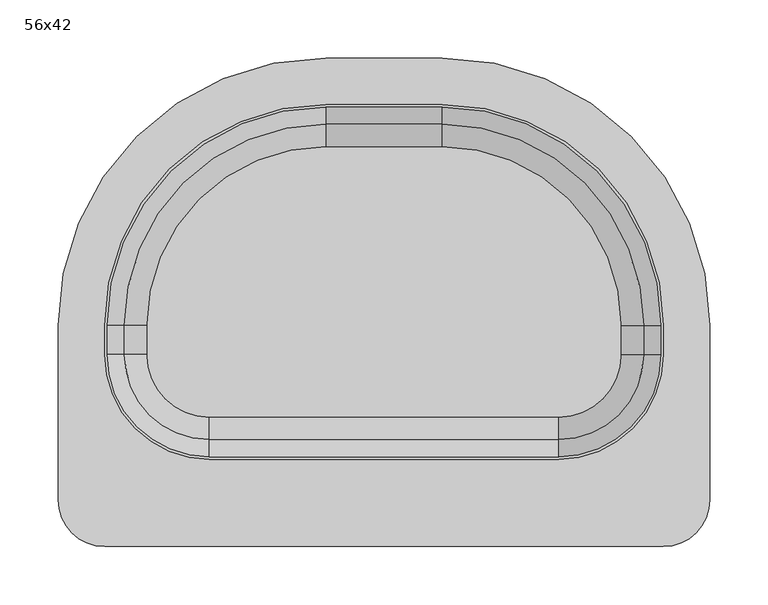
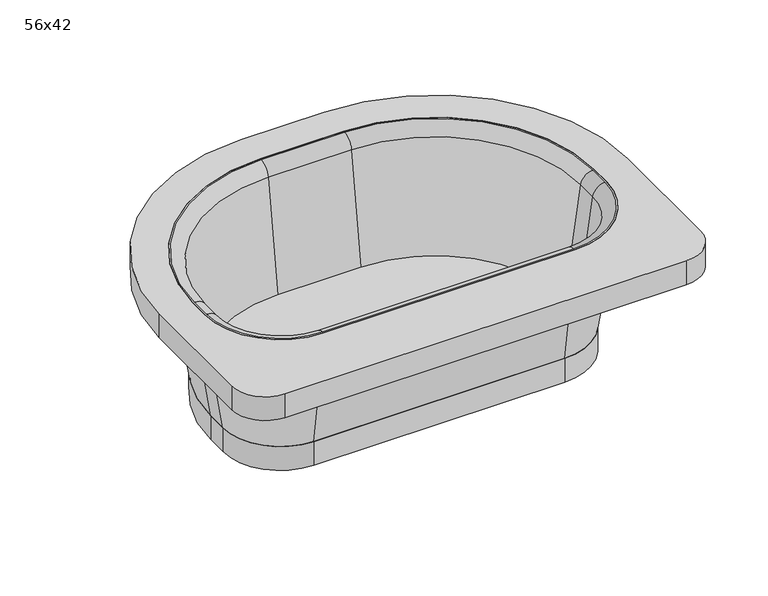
"""IFC4 building model written with IfcOpenShell, lengths in millimetres: flow terminal geometry, Sanitær Servant Løs : 56x42."""

from ifc_helpers import new_model, si_unit, point, frame, frame_2d, origin, place, context, project, spatial, polyline, circle_curve, ellipse_curve, trimmed, segment, composite_curve, outline, extrude, source, transform, mapped, element, save
from ifc_brep_helpers import plane_surface, cylinder_surface, revolved_surface, advanced_brep


def flow_terminal_56x42_63f2d4de(model_context):
    return source(origin(), model_context, "Body", "SolidModel", [
        extrude(outline(composite_curve([segment(trimmed(circle_curve(frame_2d((165.2894113, 345.0)), 168.9188748), [point((165.2894113, 513.9188748))], [point((334.208286, 345.0))], False, "CARTESIAN"), True, "CONTINUOUS"), segment(polyline([(334.208286, 345.0), (334.208286, 320.0)]), True, "CONTINUOUS"), segment(trimmed(circle_curve(frame_2d((265.2894113, 320.0)), 68.9188748), [point((334.208286, 320.0))], [point((265.2894113, 251.0811252))], False, "CARTESIAN"), True, "CONTINUOUS"), segment(polyline([(265.2894113, 251.0811252), (-34.7105887, 251.0811252)]), True, "CONTINUOUS"), segment(trimmed(circle_curve(frame_2d((-34.7105887, 320.0)), 68.9188748), [point((-34.7105887, 251.0811252))], [point((-103.6294635, 320.0))], False, "CARTESIAN"), True, "CONTINUOUS"), segment(polyline([(-103.6294635, 320.0), (-103.6294635, 345.0)]), True, "CONTINUOUS"), segment(trimmed(circle_curve(frame_2d((65.2894113, 345.0)), 168.9188748), [point((-103.6294635, 345.0))], [point((65.2894113, 513.9188748))], False, "CARTESIAN"), True, "CONTINUOUS"), segment(polyline([(65.2894113, 513.9188748), (165.2894113, 513.9188748)]), True, "CONTINUOUS")], self_intersect=False)), frame((0.0, 0.0, 720.0), z_axis=(0.0, 0.0, 1.0), x_axis=(1.0, 0.0, 0.0)), (0.0, 0.0, 1.0), 30.0),
        extrude(outline(composite_curve([segment(trimmed(circle_curve(frame_2d((65.2894113, 345.0)), 230.0), [point((-164.7105887, 345.0))], [point((65.2894113, 575.0))], False, "CARTESIAN"), True, "CONTINUOUS"), segment(polyline([(65.2894113, 575.0), (165.2894113, 575.0)]), True, "CONTINUOUS"), segment(trimmed(circle_curve(frame_2d((165.2894113, 345.0)), 230.0), [point((165.2894113, 575.0))], [point((395.2894113, 345.0))], False, "CARTESIAN"), True, "CONTINUOUS"), segment(polyline([(395.2894113, 345.0), (395.2894113, 195.0)]), True, "CONTINUOUS"), segment(trimmed(circle_curve(frame_2d((355.2894113, 195.0)), 40.0), [point((395.2894113, 195.0))], [point((355.2894113, 155.0))], False, "CARTESIAN"), True, "CONTINUOUS"), segment(polyline([(355.2894113, 155.0), (-124.7105887, 155.0)]), True, "CONTINUOUS"), segment(trimmed(circle_curve(frame_2d((-124.7105887, 195.0)), 40.0), [point((-124.7105887, 155.0))], [point((-164.7105887, 195.0))], False, "CARTESIAN"), True, "CONTINUOUS"), segment(polyline([(-164.7105887, 195.0), (-164.7105887, 345.0)]), True, "CONTINUOUS")], self_intersect=False), holes=[composite_curve([segment(trimmed(circle_curve(frame_2d((65.2894113, 345.0)), 190.0), [point((65.2894113, 535.0))], [point((-124.7105887, 345.0))], True, "CARTESIAN"), True, "CONTINUOUS"), segment(polyline([(-124.7105887, 345.0), (-124.7105887, 320.0)]), True, "CONTINUOUS"), segment(trimmed(circle_curve(frame_2d((-34.7105887, 320.0)), 90.0), [point((-124.7105887, 320.0))], [point((-34.7105887, 230.0))], True, "CARTESIAN"), True, "CONTINUOUS"), segment(polyline([(-34.7105887, 230.0), (265.2894113, 230.0)]), True, "CONTINUOUS"), segment(trimmed(circle_curve(frame_2d((265.2894113, 320.0)), 90.0), [point((265.2894113, 230.0))], [point((355.2894113, 320.0))], True, "CARTESIAN"), True, "CONTINUOUS"), segment(polyline([(355.2894113, 320.0), (355.2894113, 345.0)]), True, "CONTINUOUS"), segment(trimmed(circle_curve(frame_2d((165.2894113, 345.0)), 190.0), [point((355.2894113, 345.0))], [point((165.2894113, 535.0))], True, "CARTESIAN"), True, "CONTINUOUS"), segment(polyline([(165.2894113, 535.0), (65.2894113, 535.0)]), True, "CONTINUOUS")], self_intersect=False)]), frame((0.0, 0.0, 870.0), z_axis=(0.0, 0.0, 1.0), x_axis=(1.0, 0.0, 0.0)), (0.0, 0.0, 1.0), 30.0),
        advanced_brep(
        [(338.3272777, 345.0, 887.0875965), (165.2894113, 518.0378664, 887.0875965), (165.2894113, 498.7714612, 750.0), (319.0608725, 345.0, 750.0), (353.1812987, 345.0, 900.0), (165.2894113, 532.8918875, 900.0), (355.2894113, 345.0, 885.0), (165.2894113, 535.0, 885.0), (165.2894113, 535.0, 900.0), (355.2894113, 345.0, 900.0), (334.208286, 345.0, 750.0), (165.2894113, 513.9188748, 750.0), (319.0608725, 320.0, 750.0), (338.3272777, 320.0, 887.0875965), (353.1812987, 320.0, 900.0), (355.2894113, 320.0, 900.0), (355.2894113, 320.0, 885.0), (334.208286, 320.0, 750.0), (265.2894113, 246.9621336, 887.0875965), (265.2894113, 266.2285388, 750.0), (265.2894113, 232.1081125, 900.0), (265.2894113, 230.0, 885.0), (265.2894113, 230.0, 900.0), (265.2894113, 251.0811252, 750.0), (-34.7105887, 266.2285388, 750.0), (-34.7105887, 246.9621336, 887.0875965), (-34.7105887, 232.1081125, 900.0), (-34.7105887, 230.0, 900.0), (-34.7105887, 230.0, 885.0), (-34.7105887, 251.0811252, 750.0), (-107.7484552, 320.0, 887.0875965), (-88.48205, 320.0, 750.0), (-122.6024762, 320.0, 900.0), (-124.7105887, 320.0, 885.0), (-124.7105887, 320.0, 900.0), (-103.6294635, 320.0, 750.0), (-88.48205, 345.0, 750.0), (-107.7484552, 345.0, 887.0875965), (-122.6024762, 345.0, 900.0), (-124.7105887, 345.0, 900.0), (-124.7105887, 345.0, 885.0), (-103.6294635, 345.0, 750.0), (65.2894113, 518.0378664, 887.0875965), (65.2894113, 498.7714612, 750.0), (65.2894113, 532.8918875, 900.0), (65.2894113, 535.0, 885.0), (65.2894113, 535.0, 900.0), (65.2894113, 513.9188748, 750.0)],
        [
            (0, 1, circle_curve(frame((165.2894113, 345.0, 887.0875965), z_axis=(0.0, 0.0, 1.0), x_axis=(0.0, 1.0, 0.0)), 173.0378664)),
            (1, 2),
            (2, 3, circle_curve(frame((165.2894113, 345.0, 750.0), z_axis=(0.0, 0.0, -1.0), x_axis=(0.0, 1.0, 0.0)), 153.7714612)),
            (3, 0),
            (4, 5, circle_curve(frame((165.2894113, 345.0, 900.0), z_axis=(0.0, 0.0, 1.0), x_axis=(0.0, 1.0, 0.0)), 187.8918875)),
            (5, 1, circle_curve(frame((165.2894113, 532.8918875, 885.0), z_axis=(1.0, 0.0, 0.0), x_axis=(0.0, -1.0, 0.0)), 15.0)),
            (0, 4, circle_curve(frame((353.1812987, 345.0, 885.0), z_axis=(0.0, 1.0, 0.0), x_axis=(-1.0, 0.0, 0.0)), 15.0)),
            (6, 7, circle_curve(frame((165.2894113, 345.0, 885.0), z_axis=(0.0, 0.0, 1.0), x_axis=(0.0, 1.0, 0.0)), 190.0)),
            (7, 8),
            (8, 9, circle_curve(frame((165.2894113, 345.0, 900.0), z_axis=(0.0, 0.0, -1.0), x_axis=(0.0, 1.0, 0.0)), 190.0)),
            (9, 6),
            (10, 11, circle_curve(frame((165.2894113, 345.0, 750.0), z_axis=(0.0, 0.0, 1.0), x_axis=(0.0, 1.0, 0.0)), 168.9188748)),
            (11, 7),
            (6, 10),
            (3, 12),
            (12, 13),
            (13, 0),
            (13, 14, circle_curve(frame((353.1812987, 320.0, 885.0), z_axis=(0.0, 1.0, 0.0), x_axis=(-1.0, 0.0, 0.0)), 15.0)),
            (14, 4),
            (9, 15),
            (15, 16),
            (16, 6),
            (16, 17),
            (17, 10),
            (18, 13, circle_curve(frame((265.2894113, 320.0, 887.0875965), z_axis=(0.0, 0.0, 1.0), x_axis=(1.0, 0.0, 0.0)), 73.0378664)),
            (12, 19, circle_curve(frame((265.2894113, 320.0, 750.0), z_axis=(0.0, 0.0, -1.0), x_axis=(1.0, 0.0, 0.0)), 53.7714612)),
            (19, 18),
            (20, 14, circle_curve(frame((265.2894113, 320.0, 900.0), z_axis=(0.0, 0.0, 1.0), x_axis=(1.0, 0.0, 0.0)), 87.8918875)),
            (18, 20, circle_curve(frame((265.2894113, 232.1081125, 885.0), z_axis=(1.0, 0.0, 0.0), x_axis=(0.0, 1.0, 0.0)), 15.0)),
            (21, 16, circle_curve(frame((265.2894113, 320.0, 885.0), z_axis=(0.0, 0.0, 1.0), x_axis=(1.0, 0.0, 0.0)), 90.0)),
            (15, 22, circle_curve(frame((265.2894113, 320.0, 900.0), z_axis=(0.0, 0.0, -1.0), x_axis=(1.0, 0.0, 0.0)), 90.0)),
            (22, 21),
            (23, 17, circle_curve(frame((265.2894113, 320.0, 750.0), z_axis=(0.0, 0.0, 1.0), x_axis=(1.0, 0.0, 0.0)), 68.9188748)),
            (21, 23),
            (19, 24),
            (24, 25),
            (25, 18),
            (25, 26, circle_curve(frame((-34.7105887, 232.1081125, 885.0), z_axis=(1.0, 0.0, 0.0), x_axis=(0.0, 1.0, 0.0)), 15.0)),
            (26, 20),
            (22, 27),
            (27, 28),
            (28, 21),
            (28, 29),
            (29, 23),
            (30, 25, circle_curve(frame((-34.7105887, 320.0, 887.0875965), z_axis=(0.0, 0.0, 1.0), x_axis=(0.0, -1.0, 0.0)), 73.0378664)),
            (24, 31, circle_curve(frame((-34.7105887, 320.0, 750.0), z_axis=(0.0, 0.0, -1.0), x_axis=(0.0, -1.0, 0.0)), 53.7714612)),
            (31, 30),
            (32, 26, circle_curve(frame((-34.7105887, 320.0, 900.0), z_axis=(0.0, 0.0, 1.0), x_axis=(0.0, -1.0, 0.0)), 87.8918875)),
            (30, 32, circle_curve(frame((-122.6024762, 320.0, 885.0), z_axis=(0.0, -1.0, 0.0), x_axis=(1.0, 0.0, 0.0)), 15.0)),
            (33, 28, circle_curve(frame((-34.7105887, 320.0, 885.0), z_axis=(0.0, 0.0, 1.0), x_axis=(0.0, -1.0, 0.0)), 90.0)),
            (27, 34, circle_curve(frame((-34.7105887, 320.0, 900.0), z_axis=(0.0, 0.0, -1.0), x_axis=(0.0, -1.0, 0.0)), 90.0)),
            (34, 33),
            (35, 29, circle_curve(frame((-34.7105887, 320.0, 750.0), z_axis=(0.0, 0.0, 1.0), x_axis=(0.0, -1.0, 0.0)), 68.9188748)),
            (33, 35),
            (31, 36),
            (36, 37),
            (37, 30),
            (37, 38, circle_curve(frame((-122.6024762, 345.0, 885.0), z_axis=(0.0, -1.0, 0.0), x_axis=(1.0, 0.0, 0.0)), 15.0)),
            (38, 32),
            (34, 39),
            (39, 40),
            (40, 33),
            (40, 41),
            (41, 35),
            (42, 37, circle_curve(frame((65.2894113, 345.0, 887.0875965), z_axis=(0.0, 0.0, 1.0), x_axis=(-1.0, 0.0, 0.0)), 173.0378664)),
            (36, 43, circle_curve(frame((65.2894113, 345.0, 750.0), z_axis=(0.0, 0.0, -1.0), x_axis=(-1.0, 0.0, 0.0)), 153.7714612)),
            (43, 42),
            (44, 38, circle_curve(frame((65.2894113, 345.0, 900.0), z_axis=(0.0, 0.0, 1.0), x_axis=(-1.0, 0.0, 0.0)), 187.8918875)),
            (42, 44, circle_curve(frame((65.2894113, 532.8918875, 885.0), z_axis=(-1.0, 0.0, 0.0), x_axis=(0.0, -1.0, 0.0)), 15.0)),
            (45, 40, circle_curve(frame((65.2894113, 345.0, 885.0), z_axis=(0.0, 0.0, 1.0), x_axis=(-1.0, 0.0, 0.0)), 190.0)),
            (39, 46, circle_curve(frame((65.2894113, 345.0, 900.0), z_axis=(0.0, 0.0, -1.0), x_axis=(-1.0, 0.0, 0.0)), 190.0)),
            (46, 45),
            (47, 41, circle_curve(frame((65.2894113, 345.0, 750.0), z_axis=(0.0, 0.0, 1.0), x_axis=(-1.0, 0.0, 0.0)), 168.9188748)),
            (45, 47),
            (47, 11),
            (2, 43),
            (1, 42),
            (5, 44),
            (8, 46),
            (7, 45),
        ],
        [
            revolved_surface(polyline([(165.2894113, 498.7714612, 750.0), (165.2894113, 518.0378664, 887.0875965)]), (165.2894113, 345.0, 0.0), (0.0, 0.0, -1.0)),
            revolved_surface(trimmed(ellipse_curve(frame((165.2894113, 532.8918875, 885.0), z_axis=(-1.0, 0.0, 0.0), x_axis=(0.0, -1.0, 0.0)), 15.0, 15.0), [point((165.2894113, 518.0378664, 887.0875965))], [point((165.2894113, 532.8918875, 900.0))], True, "CARTESIAN"), (165.2894113, 345.0, 0.0), (0.0, 0.0, -1.0)),
            cylinder_surface(frame((165.2894113, 345.0, 0.0), z_axis=(0.0, 0.0, -1.0), x_axis=(0.0, 1.0, 0.0)), 190.0),
            revolved_surface(polyline([(165.2894113, 535.0, 885.0), (165.2894113, 513.9188748, 750.0)]), (165.2894113, 345.0, 0.0), (0.0, 0.0, -1.0)),
            plane_surface(frame((319.0608725, 345.0, 750.0), z_axis=(-0.9902680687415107, 0.0, 0.13917310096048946), x_axis=(0.0, -1.0, 0.0))),
            cylinder_surface(frame((353.1812987, 345.0, 885.0), z_axis=(0.0, 1.0, 0.0), x_axis=(-1.0, 0.0, 0.0)), 15.0),
            plane_surface(frame((355.2894113, 345.0, 900.0), z_axis=(1.0, 0.0, 0.0), x_axis=(0.0, -1.0, 0.0))),
            plane_surface(frame((355.2894113, 345.0, 885.0), z_axis=(0.9880261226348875, 0.0, -0.15428668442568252), x_axis=(0.0, -1.0, 0.0))),
            revolved_surface(polyline([(319.0608725, 320.0, 750.0), (338.3272777, 320.0, 887.0875965)]), (265.2894113, 320.0, 0.0), (0.0, 0.0, -1.0)),
            revolved_surface(trimmed(ellipse_curve(frame((353.1812987, 320.0, 885.0), z_axis=(0.0, 1.0, 0.0), x_axis=(-1.0, 0.0, 0.0)), 15.0, 15.0), [point((338.3272777, 320.0, 887.0875965))], [point((353.1812987, 320.0, 900.0))], True, "CARTESIAN"), (265.2894113, 320.0, 0.0), (0.0, 0.0, -1.0)),
            cylinder_surface(frame((265.2894113, 320.0, 0.0), z_axis=(0.0, 0.0, -1.0), x_axis=(1.0, 0.0, 0.0)), 90.0),
            revolved_surface(polyline([(355.2894113, 320.0, 885.0), (334.208286, 320.0, 750.0)]), (265.2894113, 320.0, 0.0), (0.0, 0.0, -1.0)),
            plane_surface(frame((265.2894113, 266.2285388, 750.0), z_axis=(0.0, 0.9902680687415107, 0.13917310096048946), x_axis=(-1.0, 0.0, 0.0))),
            cylinder_surface(frame((265.2894113, 232.1081125, 885.0), z_axis=(1.0, 0.0, 0.0), x_axis=(0.0, 1.0, 0.0)), 15.0),
            plane_surface(frame((265.2894113, 230.0, 900.0), z_axis=(0.0, -1.0, 0.0), x_axis=(-1.0, 0.0, 0.0))),
            plane_surface(frame((265.2894113, 230.0, 885.0), z_axis=(0.0, -0.9880261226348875, -0.15428668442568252), x_axis=(-1.0, 0.0, 0.0))),
            revolved_surface(polyline([(-34.7105887, 266.2285388, 750.0), (-34.7105887, 246.9621336, 887.0875965)]), (-34.7105887, 320.0, 0.0), (0.0, 0.0, -1.0)),
            revolved_surface(trimmed(ellipse_curve(frame((-34.7105887, 232.1081125, 885.0), z_axis=(1.0, 0.0, 0.0), x_axis=(0.0, 1.0, 0.0)), 15.0, 15.0), [point((-34.7105887, 246.9621336, 887.0875965))], [point((-34.7105887, 232.1081125, 900.0))], True, "CARTESIAN"), (-34.7105887, 320.0, 0.0), (0.0, 0.0, -1.0)),
            cylinder_surface(frame((-34.7105887, 320.0, 0.0), z_axis=(0.0, 0.0, -1.0), x_axis=(0.0, -1.0, 0.0)), 90.0),
            revolved_surface(polyline([(-34.7105887, 230.0, 885.0), (-34.7105887, 251.0811252, 750.0)]), (-34.7105887, 320.0, 0.0), (0.0, 0.0, -1.0)),
            plane_surface(frame((-88.48205, 320.0, 750.0), z_axis=(0.9902680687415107, 0.0, 0.13917310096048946), x_axis=(0.0, 1.0, 0.0))),
            cylinder_surface(frame((-122.6024762, 320.0, 885.0), z_axis=(0.0, -1.0, 0.0), x_axis=(1.0, 0.0, 0.0)), 15.0),
            plane_surface(frame((-124.7105887, 320.0, 900.0), z_axis=(-1.0, 0.0, 0.0), x_axis=(0.0, 1.0, 0.0))),
            plane_surface(frame((-124.7105887, 320.0, 885.0), z_axis=(-0.9880261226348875, 0.0, -0.15428668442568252), x_axis=(0.0, 1.0, 0.0))),
            revolved_surface(polyline([(-88.48205, 345.0, 750.0), (-107.7484552, 345.0, 887.0875965)]), (65.2894113, 345.0, 0.0), (0.0, 0.0, -1.0)),
            revolved_surface(trimmed(ellipse_curve(frame((-122.6024762, 345.0, 885.0), z_axis=(0.0, -1.0, 0.0), x_axis=(1.0, 0.0, 0.0)), 15.0, 15.0), [point((-107.7484552, 345.0, 887.0875965))], [point((-122.6024762, 345.0, 900.0))], True, "CARTESIAN"), (65.2894113, 345.0, 0.0), (0.0, 0.0, -1.0)),
            cylinder_surface(frame((65.2894113, 345.0, 0.0), z_axis=(0.0, 0.0, -1.0), x_axis=(-1.0, 0.0, 0.0)), 190.0),
            revolved_surface(polyline([(-124.7105887, 345.0, 885.0), (-103.6294635, 345.0, 750.0)]), (65.2894113, 345.0, 0.0), (0.0, 0.0, -1.0)),
            plane_surface(frame((65.2894113, 513.9188748, 750.0), z_axis=(0.0, 0.0, -1.0), x_axis=(1.0, 0.0, 0.0))),
            plane_surface(frame((65.2894113, 498.7714612, 750.0), z_axis=(0.0, -0.9902680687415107, 0.13917310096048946), x_axis=(1.0, 0.0, 0.0))),
            cylinder_surface(frame((65.2894113, 532.8918875, 885.0), z_axis=(-1.0, 0.0, 0.0), x_axis=(0.0, -1.0, 0.0)), 15.0),
            plane_surface(frame((65.2894113, 532.8918875, 900.0), z_axis=(0.0, 0.0, 1.0), x_axis=(1.0, 0.0, 0.0))),
            plane_surface(frame((65.2894113, 535.0, 900.0), z_axis=(0.0, 1.0, 0.0), x_axis=(1.0, 0.0, 0.0))),
            plane_surface(frame((65.2894113, 535.0, 885.0), z_axis=(0.0, 0.9880261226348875, -0.15428668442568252), x_axis=(1.0, 0.0, 0.0))),
        ],
        [
            (0, [[1, 2, 3, 4]]),
            (1, [[5, 6, -1, 7]]),
            (2, [[8, 9, 10, 11]]),
            (3, [[12, 13, -8, 14]]),
            (4, [[-4, 15, 16, 17]]),
            (5, [[-7, -17, 18, 19]]),
            (6, [[-11, 20, 21, 22]]),
            (7, [[-14, -22, 23, 24]]),
            (8, [[25, -16, 26, 27]]),
            (9, [[28, -18, -25, 29]]),
            (10, [[30, -21, 31, 32]]),
            (11, [[33, -23, -30, 34]]),
            (12, [[-27, 35, 36, 37]]),
            (13, [[-29, -37, 38, 39]]),
            (14, [[-32, 40, 41, 42]]),
            (15, [[-34, -42, 43, 44]]),
            (16, [[45, -36, 46, 47]]),
            (17, [[48, -38, -45, 49]]),
            (18, [[50, -41, 51, 52]]),
            (19, [[53, -43, -50, 54]]),
            (20, [[-47, 55, 56, 57]]),
            (21, [[-49, -57, 58, 59]]),
            (22, [[-52, 60, 61, 62]]),
            (23, [[-54, -62, 63, 64]]),
            (24, [[65, -56, 66, 67]]),
            (25, [[68, -58, -65, 69]]),
            (26, [[70, -61, 71, 72]]),
            (27, [[73, -63, -70, 74]]),
            (28, [[-64, -73, 75, -12, -24, -33, -44, -53], [76, -66, -55, -46, -35, -26, -15, -3]]),
            (29, [[-67, -76, -2, 77]]),
            (30, [[-69, -77, -6, 78]]),
            (31, [[79, -71, -60, -51, -40, -31, -20, -10], [-59, -68, -78, -5, -19, -28, -39, -48]]),
            (32, [[-72, -79, -9, 80]]),
            (33, [[-74, -80, -13, -75]]),
        ],
    ),
    ])


if __name__ == "__main__":
    model = new_model("IFC4")
    model_context = context("Model", 3, world=origin())
    ifc_project = project(units=[si_unit("LENGTHUNIT", "METRE", prefix="MILLI")], contexts=[model_context])
    site = spatial("IfcSite", under=ifc_project)
    building = spatial("IfcBuilding", under=site)
    placement = place(None, origin())
    flow_terminal_56x42_shape = flow_terminal_56x42_63f2d4de(model_context)
    element("IfcFlowTerminal", 1, ObjectType="Sanitær Servant Løs : 56x42", at=placement, inside=building, context=model_context, shape_type="MappedRepresentation", body=[
        mapped(flow_terminal_56x42_shape, transform((0.0, 0.0, 0.0), x_axis=(1.0, 0.0, 0.0), y_axis=(0.0, 1.0, 0.0), z_axis=(0.0, 0.0, 1.0))),
    ])
    save(model, "model.ifc")
